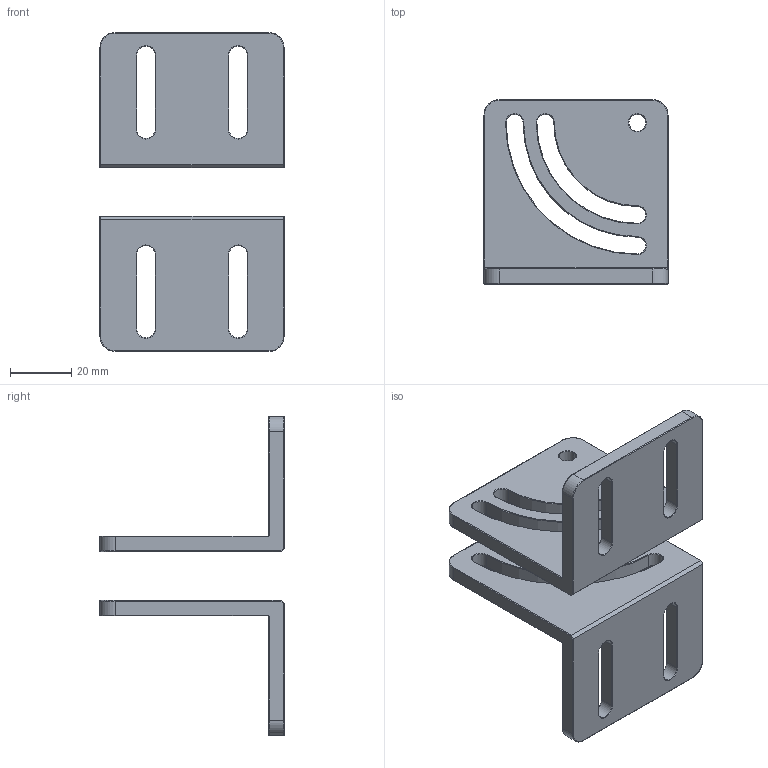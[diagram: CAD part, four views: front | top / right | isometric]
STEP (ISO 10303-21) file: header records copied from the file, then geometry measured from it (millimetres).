
FILE_DESCRIPTION (( 'STEP AP203' ), '1' );
FILE_NAME ('1.STEP', '2024-12-25T02:33:51', ( '' ), ( '' ), 'SwSTEP 2.0', 'SolidWorks 2018', '' );
FILE_SCHEMA (( 'CONFIG_CONTROL_DESIGN' ));
Length unit declared in the file: millimetre
Products named in the file (3): SCE4-NR(L); SCE4-NR(R); 1
Assembly tree (2 placements, depth 2):
  1
    SCE4-NR(L)
    SCE4-NR(R)
Bounding box: 60 x 60 x 103.91 mm (x, y, z)
Volume: 48882.1 mm3; surface area: 26348.3 mm2
Topology: 2 solids, 2 shells, 193 faces, 447 edges, 258 vertices
Faces by surface type: cylinder 66, cone 65, plane 42, bspline 20
Entity records: 6094 total; most frequent: CARTESIAN_POINT 1419, DIRECTION 965, ORIENTED_EDGE 894, EDGE_CURVE 447, AXIS2_PLACEMENT_3D 368, VERTEX_POINT 258, VECTOR 229, LINE 229
